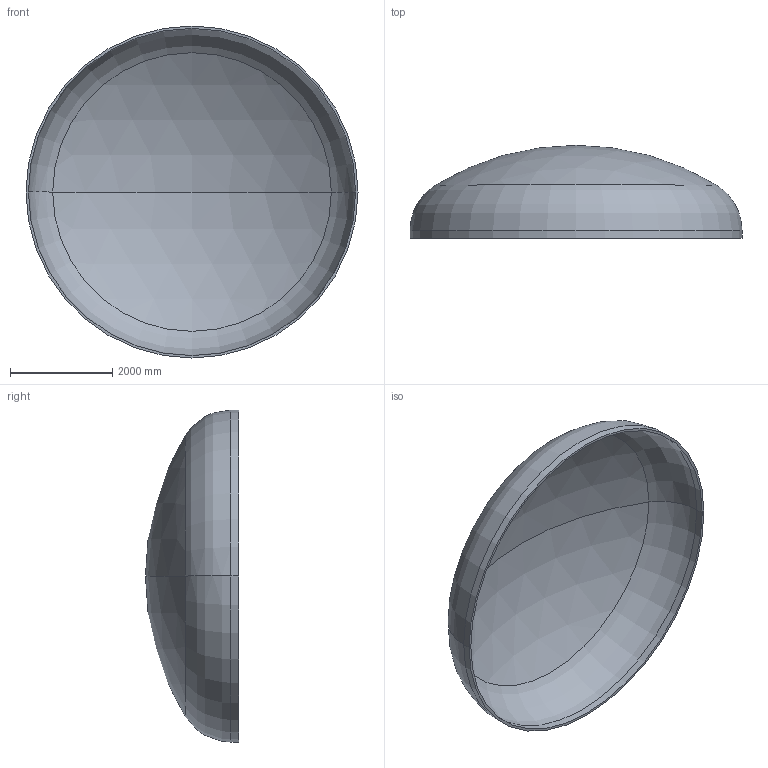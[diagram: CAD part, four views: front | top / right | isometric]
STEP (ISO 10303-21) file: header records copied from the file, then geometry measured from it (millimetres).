
FILE_DESCRIPTION (( 'STEP AP203' ), '1' );
FILE_NAME ('DIN 28013 Korbbogenform_-_Boden DIN 28013 - 6500 x 150 - I - s=47.step', '2016-07-04T10:42:14', ( '' ), ( '' ), 'SwSTEP 2.0', 'SolidWorks 2013', '' );
FILE_SCHEMA (( 'CONFIG_CONTROL_DESIGN' ));
Length unit declared in the file: millimetre
Products named in the file (1): DIN 28013 Korbbogenform_-_Boden DIN 28013 - 6500 x 150 - I - s=47
Bounding box: 6500 x 1821.14 x 6500 mm (x, y, z)
Volume: 2282004786 mm3; surface area: 98063992.8 mm2
Topology: 1 solids, 1 shells, 13 faces, 24 edges, 14 vertices
Faces by surface type: torus 4, cylinder 4, sphere 4, plane 1
Entity records: 407 total; most frequent: DIRECTION 72, CARTESIAN_POINT 52, ORIENTED_EDGE 48, AXIS2_PLACEMENT_3D 34, EDGE_CURVE 24, CIRCLE 20, VERTEX_POINT 14, EDGE_LOOP 14
